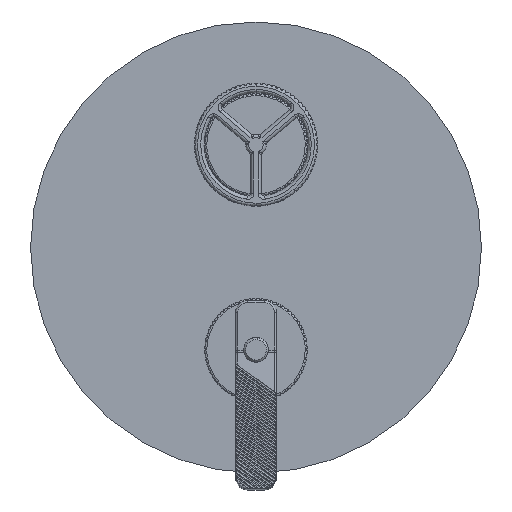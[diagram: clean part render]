
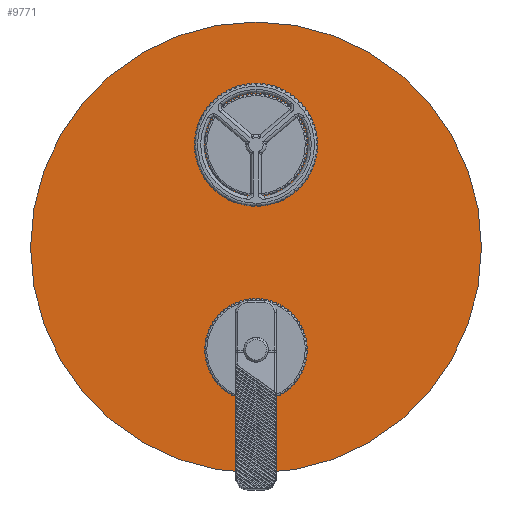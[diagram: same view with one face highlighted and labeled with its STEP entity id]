
A CAD part, top view. The second image highlights one B-rep face of the part: STEP entity #9771.
In plain terms, the highlighted planar face has unit normal (0, 0, 1).
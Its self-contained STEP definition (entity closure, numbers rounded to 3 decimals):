
#570 = EDGE_LOOP ( 'NONE', ( #52174, #13301 ) ) ;
#4686 = DIRECTION ( 'NONE',  ( 0., 0., 1. ) ) ;
#6501 = AXIS2_PLACEMENT_3D ( 'NONE', #39924, #16227, #44874 ) ;
#9771 = ADVANCED_FACE ( 'NONE', ( #20914 ), #25897, .T. ) ;
#10483 = CIRCLE ( 'NONE', #23441, 110. ) ;
#10607 = EDGE_CURVE ( 'NONE', #41683, #30338, #10483, .T. ) ;
#11573 = CARTESIAN_POINT ( 'NONE',  ( 110., 0., 2. ) ) ;
#12581 = DIRECTION ( 'NONE',  ( 0., 0., 1. ) ) ;
#13301 = ORIENTED_EDGE ( 'NONE', *, *, #10607, .T. ) ;
#14303 = DIRECTION ( 'NONE',  ( 1., 0., 0. ) ) ;
#16227 = DIRECTION ( 'NONE',  ( 0., 0., 1. ) ) ;
#18467 = CARTESIAN_POINT ( 'NONE',  ( 0., 0., 2. ) ) ;
#20914 = FACE_OUTER_BOUND ( 'NONE', #570, .T. ) ;
#23441 = AXIS2_PLACEMENT_3D ( 'NONE', #18467, #12581, #50550 ) ;
#25897 = PLANE ( 'NONE',  #6501 ) ;
#27013 = AXIS2_PLACEMENT_3D ( 'NONE', #48210, #4686, #14303 ) ;
#28497 = CARTESIAN_POINT ( 'NONE',  ( -110., 0., 2. ) ) ;
#30338 = VERTEX_POINT ( 'NONE', #28497 ) ;
#31018 = CIRCLE ( 'NONE', #27013, 110. ) ;
#39924 = CARTESIAN_POINT ( 'NONE',  ( 0., 0., 2. ) ) ;
#41683 = VERTEX_POINT ( 'NONE', #11573 ) ;
#44874 = DIRECTION ( 'NONE',  ( 1., 0., 0. ) ) ;
#48210 = CARTESIAN_POINT ( 'NONE',  ( 0., 0., 2. ) ) ;
#50550 = DIRECTION ( 'NONE',  ( 1., 0., 0. ) ) ;
#52174 = ORIENTED_EDGE ( 'NONE', *, *, #61455, .T. ) ;
#61455 = EDGE_CURVE ( 'NONE', #30338, #41683, #31018, .T. ) ;
